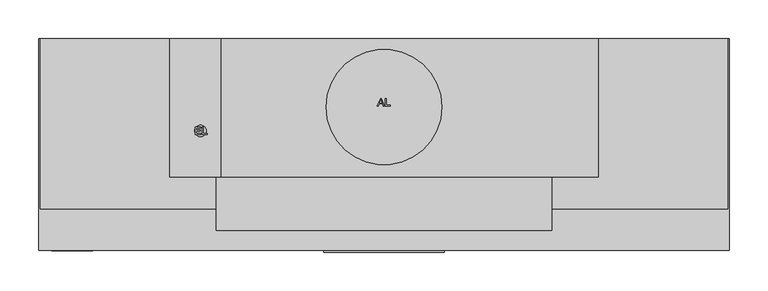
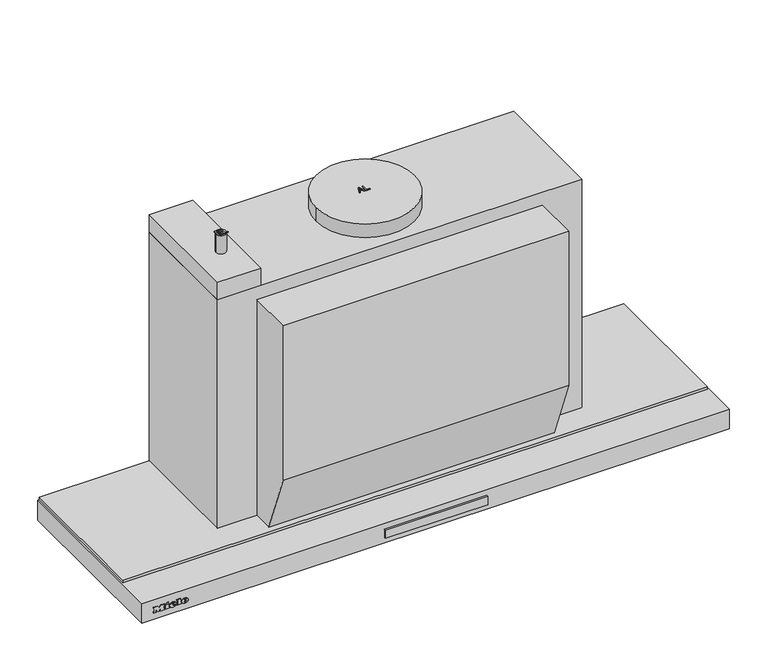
"""IFC4 building model written with IfcOpenShell, lengths in millimetres: proxy geometry, 11878530_USA_DAS4920_EDST : 28S4920S_USA_11878530_DAS4920_EDST."""

from ifc_helpers import new_model, si_unit, point, frame, frame_2d, origin, origin_with_axes, place, context, project, spatial, polyline, circle_curve, ellipse_curve, trimmed, segment, composite_curve, outline, extrude, faceted_brep, source, transform, mapped, element, save
from ifc_brep_helpers import plane_surface, cylinder_surface, revolved_surface, extruded_surface, advanced_brep


def specialty_equipment_699ca95f(model_context):
    return source(origin(), model_context, "Body", "SolidModel", [
        extrude(outline(polyline([(78.0, -275.0), (78.0, -277.3978707), (-78.0, -277.3978707), (-78.0, -275.0), (78.0, -275.0)])), frame((0.0, 0.0, -23.0389651), z_axis=(0.0, 0.0, 1.0), x_axis=(1.0, 0.0, 0.0)), (0.0, 0.0, 1.0), 13.3389155),
        advanced_brep(
        [(-383.4590019, -276.0, -18.7681017), (-383.4590019, -276.0, -17.8894017), (-377.6387019, -276.0, -17.8894017), (-387.7655019, -276.0, -17.8894017), (-385.3730019, -276.0, -20.8300017), (-377.7866019, -276.0, -18.7681017), (-380.4140019, -276.0, -18.7681017), (-382.4846019, -276.0, -19.7425017), (-383.4590019, -276.0, -16.7758017), (-383.4590019, -276.0, -15.8275017), (-381.9713019, -276.0, -15.8275017), (-381.9713019, -276.0, -16.7758017), (-383.4590019, -275.0, -18.7681017), (-382.4846019, -275.0, -19.7425017), (-380.4140019, -275.0, -18.7681017), (-377.7866019, -275.0, -18.7681017), (-385.3730019, -275.0, -20.8300017), (-387.7655019, -275.0, -17.8894017), (-377.6387019, -275.0, -17.8894017), (-383.4590019, -275.0, -17.8894017), (-383.4590019, -275.0, -16.7758017), (-381.9713019, -275.0, -16.7758017), (-381.9713019, -275.0, -15.8275017), (-383.4590019, -275.0, -15.8275017)],
        [
            (0, 1),
            (1, 2),
            (2, 3, ellipse_curve(frame((-382.7021019, -276.0, -17.8894017), z_axis=(0.0, -1.0, 0.0), x_axis=(-1.0, 0.0, 0.0)), 5.0634, 4.1847)),
            (3, 4, circle_curve(frame((-384.3985544, -276.0, -17.5936017), z_axis=(0.0, -1.0, 0.0), x_axis=(0.0, 0.0, -1.0)), 3.3799161)),
            (4, 5, circle_curve(frame((-382.8034638, -276.0, -15.2968017), z_axis=(0.0, -1.0, 0.0), x_axis=(0.0, 0.0, -1.0)), 6.1007236)),
            (5, 6),
            (6, 7, circle_curve(frame((-382.0593254, -276.0, -17.9590017), z_axis=(0.0, 1.0, 0.0), x_axis=(0.0, 0.0, -1.0)), 1.8335027)),
            (7, 0, circle_curve(frame((-382.4846019, -276.0, -18.7681017), z_axis=(0.0, 1.0, 0.0), x_axis=(0.0, 0.0, -1.0)), 0.9744)),
            (8, 9),
            (9, 10, circle_curve(frame((-382.7151519, -276.0, -15.8275017), z_axis=(0.0, 1.0, 0.0), x_axis=(0.0, 0.0, -1.0)), 0.74385)),
            (10, 11),
            (11, 8),
            (12, 13, circle_curve(frame((-382.4846019, -275.0, -18.7681017), z_axis=(0.0, -1.0, 0.0), x_axis=(0.0, 0.0, -1.0)), 0.9744)),
            (13, 14, circle_curve(frame((-382.0593254, -275.0, -17.9590017), z_axis=(0.0, -1.0, 0.0), x_axis=(0.0, 0.0, -1.0)), 1.8335027)),
            (14, 15),
            (15, 16, circle_curve(frame((-382.8034638, -275.0, -15.2968017), z_axis=(0.0, 1.0, 0.0), x_axis=(0.0, 0.0, -1.0)), 6.1007236)),
            (16, 17, circle_curve(frame((-384.3985544, -275.0, -17.5936017), z_axis=(0.0, 1.0, 0.0), x_axis=(0.0, 0.0, -1.0)), 3.3799161)),
            (17, 18, ellipse_curve(frame((-382.7021019, -275.0, -17.8894017), z_axis=(0.0, 1.0, 0.0), x_axis=(-1.0, 0.0, 0.0)), 5.0634, 4.1847)),
            (18, 19),
            (19, 12),
            (20, 21),
            (21, 22),
            (22, 23, circle_curve(frame((-382.7151519, -275.0, -15.8275017), z_axis=(0.0, -1.0, 0.0), x_axis=(0.0, 0.0, -1.0)), 0.74385)),
            (23, 20),
            (0, 12),
            (19, 1),
            (18, 2),
            (5, 15),
            (14, 6),
            (17, 3),
            (13, 7),
            (16, 4),
            (8, 20),
            (23, 9),
            (22, 10),
            (21, 11),
        ],
        [
            plane_surface(frame((-383.4590019, -276.0, -17.8894017), z_axis=(0.0, -1.0, 0.0), x_axis=(0.0, 0.0, 1.0))),
            plane_surface(frame((-383.4590019, -275.0, -17.8894017), z_axis=(0.0, 1.0, 0.0), x_axis=(0.0, 0.0, -1.0))),
            plane_surface(frame((-383.4590019, -276.0, -18.7681017), z_axis=(1.0, 0.0, 0.0), x_axis=(0.0, 1.0, 0.0))),
            plane_surface(frame((-383.4590019, -276.0, -17.8894017), z_axis=(0.0, 0.0, -1.0), x_axis=(0.0, 1.0, 0.0))),
            plane_surface(frame((-377.7866019, -276.0, -18.7681017), z_axis=(0.0, 0.0, 1.0), x_axis=(0.0, 1.0, 0.0))),
            extruded_surface(trimmed(ellipse_curve(frame((-382.7021019, -274.0, -17.8894017), z_axis=(0.0, -1.0, 0.0), x_axis=(-1.0, 0.0, 0.0)), 5.0634, 4.1847), [point((-377.6387019, -274.0, -17.8894017))], [point((-387.7655019, -274.0, -17.8894017))], True, "CARTESIAN"), (0.0, -1.0, 0.0), 1.0),
            revolved_surface(polyline([(-382.0593254, -275.0, -19.792504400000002), (-382.0593254, -276.0, -19.792504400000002)]), (-382.0593254, -275.0, -17.9590017), (0.0, 1.0, 0.0)),
            revolved_surface(polyline([(-382.4846019, -275.0, -19.7425017), (-382.4846019, -276.0, -19.7425017)]), (-382.4846019, -275.0, -18.7681017), (0.0, 1.0, 0.0)),
            cylinder_surface(frame((-384.3985544, -275.0, -17.5936017), z_axis=(0.0, -1.0, 0.0), x_axis=(0.0, 0.0, -1.0)), 3.3799161),
            cylinder_surface(frame((-382.8034638, -275.0, -15.2968017), z_axis=(0.0, -1.0, 0.0), x_axis=(0.0, 0.0, -1.0)), 6.1007236),
            plane_surface(frame((-383.4590019, -276.0, -16.7758017), z_axis=(1.0, 0.0, 0.0), x_axis=(0.0, 1.0, 0.0))),
            revolved_surface(polyline([(-382.7151519, -275.0, -16.571351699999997), (-382.7151519, -276.0, -16.571351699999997)]), (-382.7151519, -275.0, -15.8275017), (0.0, 1.0, 0.0)),
            plane_surface(frame((-381.9713019, -276.0, -15.8275017), z_axis=(-1.0, 0.0, 0.0), x_axis=(0.0, 1.0, 0.0))),
            plane_surface(frame((-381.9713019, -276.0, -16.7758017), z_axis=(0.0, 0.0, 1.0), x_axis=(0.0, 1.0, 0.0))),
        ],
        [
            (0, [[1, 2, 3, 4, 5, 6, 7, 8], [9, 10, 11, 12]]),
            (1, [[13, 14, 15, 16, 17, 18, 19, 20], [21, 22, 23, 24]]),
            (2, [[-1, 25, -20, 26]]),
            (3, [[-2, -26, -19, 27]]),
            (4, [[-6, 28, -15, 29]]),
            (5, [[-3, -27, -18, 30]]),
            (6, [[-7, -29, -14, 31]]),
            (7, [[-8, -31, -13, -25]]),
            (8, [[-4, -30, -17, 32]]),
            (9, [[-5, -32, -16, -28]]),
            (10, [[-9, 33, -24, 34]]),
            (11, [[-10, -34, -23, 35]]),
            (12, [[-11, -35, -22, 36]]),
            (13, [[-12, -36, -21, -33]]),
        ],
    ),
        advanced_brep(
        [(-401.6159019, -276.0, -18.7681017), (-401.6159019, -276.0, -17.8894017), (-395.7956019, -276.0, -17.8894017), (-405.9224019, -276.0, -17.8894017), (-403.5299019, -276.0, -20.8300017), (-395.9435019, -276.0, -18.7681017), (-398.5709019, -276.0, -18.7681017), (-400.6415019, -276.0, -19.7425017), (-401.6159019, -276.0, -16.7758017), (-401.6159019, -276.0, -15.8275017), (-400.1282019, -276.0, -15.8275017), (-400.1282019, -276.0, -16.7758017), (-401.6159019, -275.0, -18.7681017), (-400.6415019, -275.0, -19.7425017), (-398.5709019, -275.0, -18.7681017), (-395.9435019, -275.0, -18.7681017), (-403.5299019, -275.0, -20.8300017), (-405.9224019, -275.0, -17.8894017), (-395.7956019, -275.0, -17.8894017), (-401.6159019, -275.0, -17.8894017), (-401.6159019, -275.0, -16.7758017), (-400.1282019, -275.0, -16.7758017), (-400.1282019, -275.0, -15.8275017), (-401.6159019, -275.0, -15.8275017)],
        [
            (0, 1),
            (1, 2),
            (2, 3, ellipse_curve(frame((-400.8590019, -276.0, -17.8894017), z_axis=(0.0, -1.0, 0.0), x_axis=(-1.0, 0.0, 0.0)), 5.0634, 4.1847)),
            (3, 4, circle_curve(frame((-402.5554544, -276.0, -17.5936017), z_axis=(0.0, -1.0, 0.0), x_axis=(0.0, 0.0, -1.0)), 3.3799161)),
            (4, 5, circle_curve(frame((-400.9603638, -276.0, -15.2968017), z_axis=(0.0, -1.0, 0.0), x_axis=(0.0, 0.0, -1.0)), 6.1007236)),
            (5, 6),
            (6, 7, circle_curve(frame((-400.2162254, -276.0, -17.9590017), z_axis=(0.0, 1.0, 0.0), x_axis=(0.0, 0.0, -1.0)), 1.8335027)),
            (7, 0, circle_curve(frame((-400.6415019, -276.0, -18.7681017), z_axis=(0.0, 1.0, 0.0), x_axis=(0.0, 0.0, -1.0)), 0.9744)),
            (8, 9),
            (9, 10, circle_curve(frame((-400.8720519, -276.0, -15.8275017), z_axis=(0.0, 1.0, 0.0), x_axis=(0.0, 0.0, -1.0)), 0.74385)),
            (10, 11),
            (11, 8),
            (12, 13, circle_curve(frame((-400.6415019, -275.0, -18.7681017), z_axis=(0.0, -1.0, 0.0), x_axis=(0.0, 0.0, -1.0)), 0.9744)),
            (13, 14, circle_curve(frame((-400.2162254, -275.0, -17.9590017), z_axis=(0.0, -1.0, 0.0), x_axis=(0.0, 0.0, -1.0)), 1.8335027)),
            (14, 15),
            (15, 16, circle_curve(frame((-400.9603638, -275.0, -15.2968017), z_axis=(0.0, 1.0, 0.0), x_axis=(0.0, 0.0, -1.0)), 6.1007236)),
            (16, 17, circle_curve(frame((-402.5554544, -275.0, -17.5936017), z_axis=(0.0, 1.0, 0.0), x_axis=(0.0, 0.0, -1.0)), 3.3799161)),
            (17, 18, ellipse_curve(frame((-400.8590019, -275.0, -17.8894017), z_axis=(0.0, 1.0, 0.0), x_axis=(-1.0, 0.0, 0.0)), 5.0634, 4.1847)),
            (18, 19),
            (19, 12),
            (20, 21),
            (21, 22),
            (22, 23, circle_curve(frame((-400.8720519, -275.0, -15.8275017), z_axis=(0.0, -1.0, 0.0), x_axis=(0.0, 0.0, -1.0)), 0.74385)),
            (23, 20),
            (0, 12),
            (19, 1),
            (18, 2),
            (5, 15),
            (14, 6),
            (17, 3),
            (13, 7),
            (16, 4),
            (8, 20),
            (23, 9),
            (22, 10),
            (21, 11),
        ],
        [
            plane_surface(frame((-401.6159019, -276.0, -17.8894017), z_axis=(0.0, -1.0, 0.0), x_axis=(0.0, 0.0, 1.0))),
            plane_surface(frame((-401.6159019, -275.0, -17.8894017), z_axis=(0.0, 1.0, 0.0), x_axis=(0.0, 0.0, -1.0))),
            plane_surface(frame((-401.6159019, -276.0, -18.7681017), z_axis=(1.0, 0.0, 0.0), x_axis=(0.0, 1.0, 0.0))),
            plane_surface(frame((-401.6159019, -276.0, -17.8894017), z_axis=(0.0, 0.0, -1.0), x_axis=(0.0, 1.0, 0.0))),
            plane_surface(frame((-395.9435019, -276.0, -18.7681017), z_axis=(0.0, 0.0, 1.0), x_axis=(0.0, 1.0, 0.0))),
            extruded_surface(trimmed(ellipse_curve(frame((-400.8590019, -274.0, -17.8894017), z_axis=(0.0, -1.0, 0.0), x_axis=(-1.0, 0.0, 0.0)), 5.0634, 4.1847), [point((-395.7956019, -274.0, -17.8894017))], [point((-405.9224019, -274.0, -17.8894017))], True, "CARTESIAN"), (0.0, -1.0, 0.0), 1.0),
            revolved_surface(polyline([(-400.2162254, -275.0, -19.792504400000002), (-400.2162254, -276.0, -19.792504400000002)]), (-400.2162254, -275.0, -17.9590017), (0.0, 1.0, 0.0)),
            revolved_surface(polyline([(-400.6415019, -275.0, -19.7425017), (-400.6415019, -276.0, -19.7425017)]), (-400.6415019, -275.0, -18.7681017), (0.0, 1.0, 0.0)),
            cylinder_surface(frame((-402.5554544, -275.0, -17.5936017), z_axis=(0.0, -1.0, 0.0), x_axis=(0.0, 0.0, -1.0)), 3.3799161),
            cylinder_surface(frame((-400.9603638, -275.0, -15.2968017), z_axis=(0.0, -1.0, 0.0), x_axis=(0.0, 0.0, -1.0)), 6.1007236),
            plane_surface(frame((-401.6159019, -276.0, -16.7758017), z_axis=(1.0, 0.0, 0.0), x_axis=(0.0, 1.0, 0.0))),
            revolved_surface(polyline([(-400.8720519, -275.0, -16.571351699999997), (-400.8720519, -276.0, -16.571351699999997)]), (-400.8720519, -275.0, -15.8275017), (0.0, 1.0, 0.0)),
            plane_surface(frame((-400.1282019, -276.0, -15.8275017), z_axis=(-1.0, 0.0, 0.0), x_axis=(0.0, 1.0, 0.0))),
            plane_surface(frame((-400.1282019, -276.0, -16.7758017), z_axis=(0.0, 0.0, 1.0), x_axis=(0.0, 1.0, 0.0))),
        ],
        [
            (0, [[1, 2, 3, 4, 5, 6, 7, 8], [9, 10, 11, 12]]),
            (1, [[13, 14, 15, 16, 17, 18, 19, 20], [21, 22, 23, 24]]),
            (2, [[-1, 25, -20, 26]]),
            (3, [[-2, -26, -19, 27]]),
            (4, [[-6, 28, -15, 29]]),
            (5, [[-3, -27, -18, 30]]),
            (6, [[-7, -29, -14, 31]]),
            (7, [[-8, -31, -13, -25]]),
            (8, [[-4, -30, -17, 32]]),
            (9, [[-5, -32, -16, -28]]),
            (10, [[-9, 33, -24, 34]]),
            (11, [[-10, -34, -23, 35]]),
            (12, [[-11, -35, -22, 36]]),
            (13, [[-12, -36, -21, -33]]),
        ],
    ),
        extrude(outline(polyline([(-12.6433017, -411.1250019), (-14.0527017, -410.4638019), (-12.6781017, -407.5145019), (-11.2687017, -408.1670019), (-12.6433017, -411.1250019)])), frame((0.0, -276.0, 0.0), z_axis=(0.0, 1.0, 0.0), x_axis=(0.0, 0.0, 1.0)), (0.0, 0.0, 1.0), 1.0),
        extrude(outline(polyline([(-14.2441017, -413.2739019), (-15.8014017, -413.2739019), (-15.8014017, -412.2386019), (-19.3684017, -412.2386019), (-19.3684017, -413.2739019), (-20.8300017, -413.2739019), (-20.8300017, -406.4096019), (-19.3684017, -406.4096019), (-19.3684017, -407.4188019), (-14.2441017, -407.4188019), (-14.2441017, -413.2739019)])), frame((0.0, -276.0, 0.0), z_axis=(0.0, 1.0, 0.0), x_axis=(0.0, 0.0, 1.0)), (0.0, 0.0, 1.0), 1.0),
        extrude(outline(polyline([(-13.5481017, -395.3084019), (-13.5481017, -394.2644019), (-19.3684017, -394.2644019), (-19.3684017, -395.3084019), (-20.8300017, -395.3084019), (-20.8300017, -388.2527019), (-19.3684017, -388.2527019), (-19.3684017, -389.3228019), (-12.1300017, -389.3228019), (-12.1300017, -395.3084019), (-13.5481017, -395.3084019)])), frame((0.0, -276.0, 0.0), z_axis=(0.0, 1.0, 0.0), x_axis=(0.0, 0.0, 1.0)), (0.0, 0.0, 1.0), 1.0),
        extrude(outline(polyline([(-13.5481017, -430.6130019), (-13.5481017, -429.5603019), (-19.3684017, -429.5603019), (-19.3684017, -430.6130019), (-20.8300017, -430.6130019), (-20.8300017, -426.7850019), (-19.3684017, -426.7850019), (-19.3684017, -427.8290019), (-15.6719769, -427.8290019), (-20.8300017, -423.9401019), (-15.5772794, -420.0338019), (-19.3684017, -420.0338019), (-19.3684017, -421.1039019), (-20.8300017, -421.1039019), (-20.8300017, -414.1613019), (-19.3684017, -414.1613019), (-19.3684017, -415.2662019), (-13.5481017, -415.2662019), (-13.5481017, -414.1613019), (-12.1300017, -414.1613019), (-12.1300017, -419.4596019), (-15.3925017, -422.0000019), (-12.1300017, -424.5491019), (-12.1300017, -430.6130019), (-13.5481017, -430.6130019)])), frame((0.0, -276.0, 0.0), z_axis=(0.0, 1.0, 0.0), x_axis=(0.0, 0.0, 1.0)), (0.0, 0.0, 1.0), 1.0),
        extrude(outline(polyline([(120.0, -19.25), (120.0, -31.75), (-120.0, -31.75), (-120.0, -19.25), (120.0, -19.25)])), frame((0.0, 0.0, -23.0), z_axis=(0.0, 0.0, 1.0), x_axis=(1.0, 0.0, 0.0)), (0.0, 0.0, 1.0), 1.785426),
        extrude(outline(polyline([(446.0, 0.0), (446.0, -221.0), (-446.0, -221.0), (-446.0, 0.0), (446.0, 0.0)])), origin_with_axes(), (0.0, 0.0, 1.0), 4.0),
        extrude(outline(polyline([(-8.547125, -87.975609), (-4.5372113, -77.929978), (-3.4679009, -77.929978), (0.5420128, -87.975609), (-0.7848149, -87.975609), (-1.9350593, -84.8363493), (-6.0725055, -84.8363493), (-7.2202973, -87.975609), (-8.547125, -87.975609)]), holes=[polyline([(-5.6114267, -83.5806455), (-2.3936855, -83.5806455), (-3.2986752, -81.110931), (-4.0025561, -79.1856819), (-4.6279555, -80.8951069), (-5.6114267, -83.5806455)])]), frame((0.0, 0.0, 395.0), z_axis=(0.0, 0.0, 1.0), x_axis=(1.0, 0.0, 0.0)), (0.0, 0.0, 1.0), 1.0),
        extrude(outline(polyline([(1.8835558, -87.975609), (1.8835558, -77.929978), (3.1392597, -77.929978), (3.1392597, -86.7199052), (8.1620752, -86.7199052), (8.1620752, -87.975609), (1.8835558, -87.975609)])), frame((0.0, 0.0, 395.0), z_axis=(0.0, 0.0, 1.0), x_axis=(1.0, 0.0, 0.0)), (0.0, 0.0, 1.0), 1.0),
        extrude(outline(polyline([(-180.0, 352.0), (-180.0, 4.0), (-211.7966838, 4.0), (-249.5, 103.2192532), (-249.5, 352.0), (-180.0, 352.0)])), frame((-217.7156244, 0.0, 0.0), z_axis=(1.0, 0.0, 0.0), x_axis=(0.0, 1.0, 0.0)), (0.0, 0.0, 1.0), 435.4312488),
        faceted_brep([(448.0, 0.0, -32.0), (448.0, -275.0, -32.0), (-448.0, -275.0, -32.0), (-448.0, 0.0, -32.0), (-413.0, 0.0, -32.0), (-413.0, -242.0, -32.0), (413.0, -242.0, -32.0), (413.0, 0.0, -32.0), (448.0, 0.0, 0.0), (-448.0, 0.0, 0.0), (-448.0, -275.0, 0.0), (448.0, -275.0, 0.0), (413.0, 0.0, -24.0), (-413.0, 0.0, -24.0), (413.0, -242.0, -25.0), (-413.0, -242.0, -25.0), (-413.0, -52.0, -25.0), (413.0, -52.0, -25.0), (-413.0, -52.0, -24.0), (413.0, -52.0, -24.0), (126.0, -12.0, -24.0), (-126.0, -12.0, -24.0), (-126.0, -39.0, -24.0), (126.0, -39.0, -24.0), (126.0, -12.0, -21.214574), (126.0, -39.0, -21.214574), (-126.0, -39.0, -21.214574), (-126.0, -12.0, -21.214574)], [[[0, 1, 2, 3, 4, 5, 6, 7]], [[8, 9, 10, 11]], [[9, 8, 0, 7, 12, 13, 4, 3]], [[3, 2, 10, 9]], [[2, 1, 11, 10]], [[1, 0, 8, 11]], [[14, 15, 16, 17]], [[15, 5, 4, 13, 18, 16]], [[15, 14, 6, 5]], [[6, 14, 17, 19, 12, 7]], [[12, 19, 18, 13], [20, 21, 22, 23]], [[18, 19, 17, 16]], [[24, 25, 26, 27]], [[24, 27, 21, 20]], [[27, 26, 22, 21]], [[26, 25, 23, 22]], [[25, 24, 20, 23]]]),
        extrude(outline(polyline([(-278.0, -180.0), (-278.0, 0.0), (-212.0, 0.0), (-212.0, -180.0), (-278.0, -180.0)])), frame((0.0, 0.0, 373.0), z_axis=(0.0, 0.0, 1.0), x_axis=(1.0, 0.0, 0.0)), (0.0, 0.0, 1.0), 28.0),
        extrude(outline(composite_curve([segment(trimmed(circle_curve(frame_2d((0.0, -89.0)), 75.0), [point((-75.0, -89.0))], [point((75.0, -89.0))], False, "CARTESIAN"), True, "CONTINUOUS"), segment(trimmed(circle_curve(frame_2d((0.0, -89.0)), 75.0), [point((75.0, -89.0))], [point((-75.0, -89.0))], False, "CARTESIAN"), True, "CONTINUOUS")], self_intersect=False)), frame((0.0, 0.0, 373.0), z_axis=(0.0, 0.0, 1.0), x_axis=(1.0, 0.0, 0.0)), (0.0, 0.0, 1.0), 22.0),
        extrude(outline(polyline([(278.0, -180.0), (-278.0, -180.0), (-278.0, 0.0), (278.0, 0.0), (278.0, -180.0)])), frame((0.0, 0.0, 4.0), z_axis=(0.0, 0.0, 1.0), x_axis=(1.0, 0.0, 0.0)), (0.0, 0.0, 1.0), 369.0),
        extrude(outline(polyline([(-244.9012591, -124.9184735), (-244.9012591, -114.8728425), (-237.6809618, -114.8728425), (-237.6809618, -116.1285464), (-243.6455552, -116.1285464), (-243.6455552, -119.1108431), (-237.9948878, -119.1108431), (-237.9948878, -120.366547), (-243.6455552, -120.366547), (-243.6455552, -123.6627696), (-237.5239988, -123.6627696), (-237.5239988, -124.9184735), (-244.9012591, -124.9184735)])), frame((0.0, 0.0, 431.0), z_axis=(0.0, 0.0, 1.0), x_axis=(1.0, 0.0, 0.0)), (0.0, 0.0, 1.0), 1.0),
        extrude(outline(polyline([(-235.640443, -124.9184735), (-235.640443, -114.8728425), (-234.3847391, -114.8728425), (-234.3847391, -123.6627696), (-229.3619236, -123.6627696), (-229.3619236, -124.9184735), (-235.640443, -124.9184735)])), frame((0.0, 0.0, 431.0), z_axis=(0.0, 0.0, 1.0), x_axis=(1.0, 0.0, 0.0)), (0.0, 0.0, 1.0), 1.0),
        extrude(outline(composite_curve([segment(trimmed(circle_curve(frame_2d((-238.0, -120.0)), 7.5), [point((-230.5, -120.0))], [point((-245.5, -120.0))], False, "CARTESIAN"), True, "CONTINUOUS"), segment(trimmed(circle_curve(frame_2d((-238.0, -120.0)), 7.5), [point((-245.5, -120.0))], [point((-230.5, -120.0))], False, "CARTESIAN"), True, "CONTINUOUS")], self_intersect=False)), frame((0.0, 0.0, 401.0), z_axis=(0.0, 0.0, 1.0), x_axis=(1.0, 0.0, 0.0)), (0.0, 0.0, 1.0), 30.0),
        extrude(outline(polyline([(331.0813184, -268.0), (331.0813184, -246.0), (399.0, -246.0), (399.0, -268.0), (331.0813184, -268.0)])), frame((0.0, 0.0, -33.3019181), z_axis=(0.0, 0.0, 1.0), x_axis=(1.0, 0.0, 0.0)), (0.0, 0.0, 1.0), 1.3019181),
        extrude(outline(polyline([(-399.0, -268.0), (-399.0, -246.0), (-331.0, -246.0), (-331.0, -268.0), (-399.0, -268.0)])), frame((0.0, 0.0, -33.3019181), z_axis=(0.0, 0.0, 1.0), x_axis=(1.0, 0.0, 0.0)), (0.0, 0.0, 1.0), 1.3019181),
    ])


if __name__ == "__main__":
    model = new_model("IFC4")
    model_context = context("Model", 3, world=origin())
    ifc_project = project(units=[si_unit("LENGTHUNIT", "METRE", prefix="MILLI")], contexts=[model_context])
    site = spatial("IfcSite", under=ifc_project)
    building = spatial("IfcBuilding", under=site)
    placement = place(None, origin())
    specialty_equipment_shape = specialty_equipment_699ca95f(model_context)
    element("IfcBuildingElementProxy", 1, Name="11878530_USA_DAS4920_EDST : 28S4920S_USA_11878530_DAS4920_EDST", ObjectType="11878530_USA_DAS4920_EDST : 28S4920S_USA_11878530_DAS4920_EDST", at=placement, inside=building, context=model_context, shape_type="MappedRepresentation", body=[
        mapped(specialty_equipment_shape, transform((0.0, 0.0, 0.0), x_axis=(1.0, 0.0, 0.0), y_axis=(0.0, 1.0, 0.0), z_axis=(0.0, 0.0, 1.0))),
    ])
    save(model, "model.ifc")
